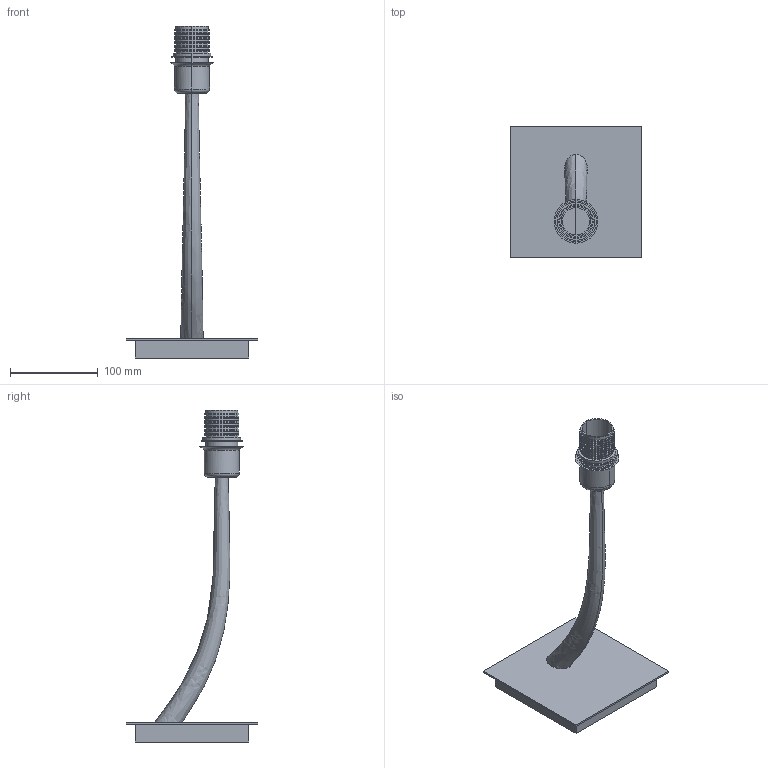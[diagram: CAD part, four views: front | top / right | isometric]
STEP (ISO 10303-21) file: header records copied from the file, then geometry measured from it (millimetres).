
FILE_DESCRIPTION(/* description */ (''),/* implementation_level */ '2;1');
FILE_NAME(/* name */ 'C:\Users\FrancoSartori\Documents\FARO\01_En Proceso\00_REM\03_Publicación\29685.stp',/* time_stamp */ '2021-07-07T12:33:43+02:00',/* author */ ('FrancoSartori'),/* organization */ (''),/* preprocessor_version */ 'ST-DEVELOPER v18.1',/* originating_system */ 'AutoCAD Mechanical',/* authorisation */ '');
FILE_SCHEMA (('AUTOMOTIVE_DESIGN { 1 0 10303 214 3 1 1 }'));
Length unit declared in the file: millimetre
Products named in the file (2): Product; 29684_ 29685_ - STR-685711-Export
Assembly tree (1 placements, depth 2):
  Product
    29684_ 29685_ - STR-685711-Export
Bounding box: 150 x 150 x 379 mm (x, y, z)
Volume: 504948.8 mm3; surface area: 105176.6 mm2
Topology: 2 solids, 2 shells, 139 faces, 283 edges, 150 vertices
Faces by surface type: plane 71, cylinder 58, torus 8, bspline 2
Entity records: 4589 total; most frequent: CARTESIAN_POINT 1633, DIRECTION 659, ORIENTED_EDGE 566, EDGE_CURVE 283, AXIS2_PLACEMENT_3D 260, VERTEX_POINT 150, EDGE_LOOP 141, FACE_OUTER_BOUND 139
